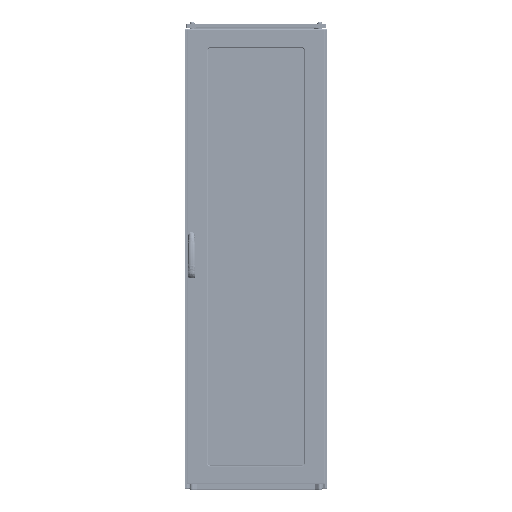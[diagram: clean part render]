
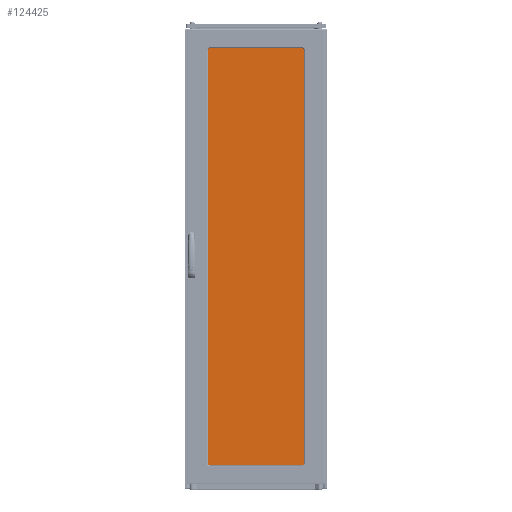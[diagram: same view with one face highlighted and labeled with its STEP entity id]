
A CAD part, top view. The second image highlights one B-rep face of the part: STEP entity #124425.
In plain terms, the highlighted planar face has unit normal (0, 0, 1).
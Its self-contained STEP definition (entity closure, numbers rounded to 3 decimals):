
#2184 = ORIENTED_EDGE ( 'NONE', *, *, #123867, .T. ) ;
#2307 = LINE ( 'NONE', #177928, #18723 ) ;
#15887 = CARTESIAN_POINT ( 'NONE',  ( 0., -446., 4. ) ) ;
#18723 = VECTOR ( 'NONE', #179562, 1000. ) ;
#23438 = CARTESIAN_POINT ( 'NONE',  ( 0., 0., 4. ) ) ;
#33061 = CARTESIAN_POINT ( 'NONE',  ( 1831., 0., 4. ) ) ;
#36591 = LINE ( 'NONE', #110912, #43693 ) ;
#41227 = PLANE ( 'NONE',  #293549 ) ;
#43693 = VECTOR ( 'NONE', #82239, 1000. ) ;
#47052 = DIRECTION ( 'NONE',  ( 0., 1., 0. ) ) ;
#61869 = EDGE_LOOP ( 'NONE', ( #113224, #168788, #2184, #220200 ) ) ;
#75675 = LINE ( 'NONE', #303583, #287760 ) ;
#82239 = DIRECTION ( 'NONE',  ( 1., 0., 0. ) ) ;
#93578 = FACE_OUTER_BOUND ( 'NONE', #61869, .T. ) ;
#100626 = VERTEX_POINT ( 'NONE', #33061 ) ;
#110912 = CARTESIAN_POINT ( 'NONE',  ( 0., -446., 4. ) ) ;
#113224 = ORIENTED_EDGE ( 'NONE', *, *, #331310, .T. ) ;
#123867 = EDGE_CURVE ( 'NONE', #237476, #100626, #75675, .T. ) ;
#124425 = ADVANCED_FACE ( 'NONE', ( #93578 ), #41227, .T. ) ;
#139227 = LINE ( 'NONE', #275762, #245232 ) ;
#160710 = EDGE_CURVE ( 'NONE', #275500, #237476, #36591, .T. ) ;
#168788 = ORIENTED_EDGE ( 'NONE', *, *, #160710, .T. ) ;
#174278 = CARTESIAN_POINT ( 'NONE',  ( 0., -446., 4. ) ) ;
#177928 = CARTESIAN_POINT ( 'NONE',  ( 0., 0., 4. ) ) ;
#178373 = VERTEX_POINT ( 'NONE', #23438 ) ;
#179562 = DIRECTION ( 'NONE',  ( -1., 0., 0. ) ) ;
#201437 = DIRECTION ( 'NONE',  ( 1., 0., 0. ) ) ;
#215760 = CARTESIAN_POINT ( 'NONE',  ( 1831., -446., 4. ) ) ;
#220200 = ORIENTED_EDGE ( 'NONE', *, *, #223360, .T. ) ;
#221779 = DIRECTION ( 'NONE',  ( 0., 0., 1. ) ) ;
#223360 = EDGE_CURVE ( 'NONE', #100626, #178373, #2307, .T. ) ;
#237476 = VERTEX_POINT ( 'NONE', #215760 ) ;
#245232 = VECTOR ( 'NONE', #324777, 1000. ) ;
#275500 = VERTEX_POINT ( 'NONE', #174278 ) ;
#275762 = CARTESIAN_POINT ( 'NONE',  ( 0., 0., 4. ) ) ;
#287760 = VECTOR ( 'NONE', #47052, 1000. ) ;
#293549 = AXIS2_PLACEMENT_3D ( 'NONE', #15887, #221779, #201437 ) ;
#303583 = CARTESIAN_POINT ( 'NONE',  ( 1831., 0., 4. ) ) ;
#324777 = DIRECTION ( 'NONE',  ( 0., -1., 0. ) ) ;
#331310 = EDGE_CURVE ( 'NONE', #178373, #275500, #139227, .T. ) ;
